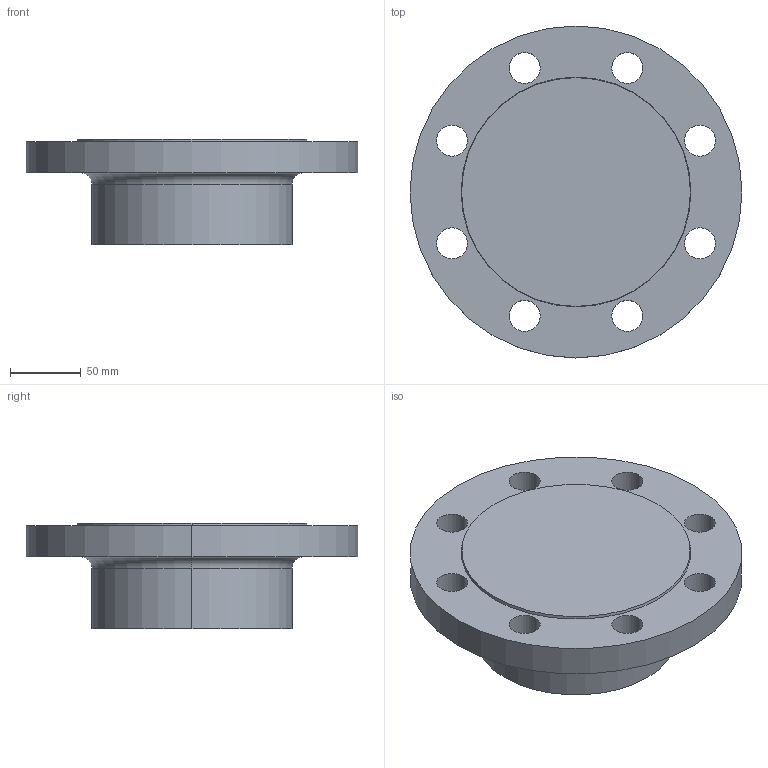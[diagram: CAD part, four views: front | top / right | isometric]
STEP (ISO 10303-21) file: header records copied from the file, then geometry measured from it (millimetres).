
FILE_DESCRIPTION (( 'STEP AP214' ), '1' );
FILE_NAME ('PN40 DN100 Type 21(i) - Type B Face.STEP', '2019-01-02T00:16:39', ( '' ), ( '' ), 'SwSTEP 2.0', 'SolidWorks 2019', '' );
FILE_SCHEMA (( 'AUTOMOTIVE_DESIGN' ));
Length unit declared in the file: millimetre
Products named in the file (1): PN40 DN100 Type 21(i) - Type B Face
Bounding box: 235 x 235 x 75 mm (x, y, z)
Volume: 1742676.3 mm3; surface area: 131175.5 mm2
Topology: 1 solids, 1 shells, 28 faces, 70 edges, 46 vertices
Faces by surface type: cylinder 20, plane 4, torus 2, cone 2
Entity records: 932 total; most frequent: DIRECTION 176, CARTESIAN_POINT 145, ORIENTED_EDGE 140, AXIS2_PLACEMENT_3D 77, EDGE_CURVE 70, CIRCLE 48, VERTEX_POINT 46, EDGE_LOOP 46
